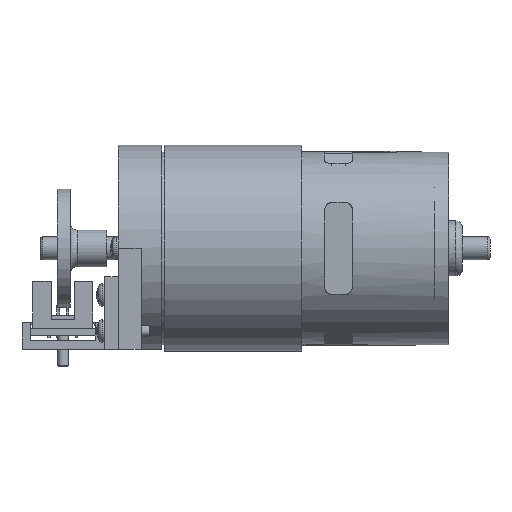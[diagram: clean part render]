
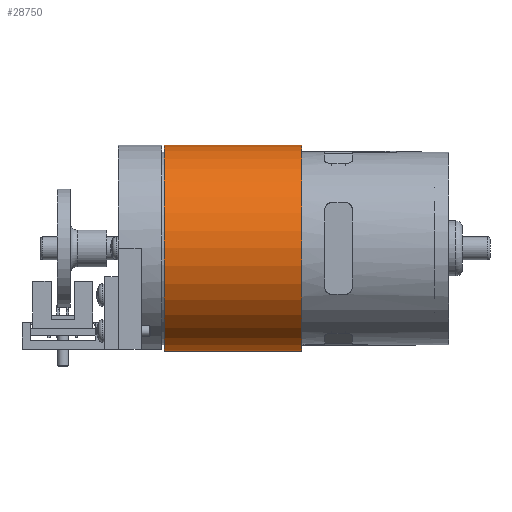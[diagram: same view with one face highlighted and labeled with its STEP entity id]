
A CAD part, left-side view. The second image highlights one B-rep face of the part: STEP entity #28750.
In plain terms, the highlighted cylindrical face has radius 22.5 mm (diameter 45 mm), a partial arc.
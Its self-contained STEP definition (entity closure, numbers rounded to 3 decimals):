
#3410=FACE_OUTER_BOUND('',#5084,.T.);
#5084=EDGE_LOOP('',(#21540,#21541,#21542,#21543));
#6788=LINE('',#40997,#9611);
#6794=LINE('',#41009,#9617);
#9611=VECTOR('',#33636,10.);
#9617=VECTOR('',#33644,10.);
#12508=CIRCLE('',#31165,22.5);
#12511=CIRCLE('',#31169,22.5);
#13079=VERTEX_POINT('',#40993);
#13081=VERTEX_POINT('',#40996);
#13084=VERTEX_POINT('',#41003);
#13086=VERTEX_POINT('',#41007);
#16134=EDGE_CURVE('',#13081,#13079,#6788,.T.);
#16140=EDGE_CURVE('',#13084,#13086,#6794,.T.);
#16376=EDGE_CURVE('',#13081,#13086,#12508,.T.);
#16379=EDGE_CURVE('',#13079,#13084,#12511,.T.);
#21540=ORIENTED_EDGE('',*,*,#16140,.T.);
#21541=ORIENTED_EDGE('',*,*,#16376,.F.);
#21542=ORIENTED_EDGE('',*,*,#16134,.T.);
#21543=ORIENTED_EDGE('',*,*,#16379,.T.);
#28334=CYLINDRICAL_SURFACE('',#31170,22.5);
#28750=ADVANCED_FACE('',(#3410),#28334,.T.);
#31165=AXIS2_PLACEMENT_3D('',#41642,#34180,#34181);
#31169=AXIS2_PLACEMENT_3D('',#41647,#34188,#34189);
#31170=AXIS2_PLACEMENT_3D('',#41648,#34190,#34191);
#33636=DIRECTION('',(0.,1.,0.));
#33644=DIRECTION('',(0.,-1.,0.));
#34180=DIRECTION('center_axis',(0.,-1.,0.));
#34181=DIRECTION('ref_axis',(-1.,0.,0.));
#34188=DIRECTION('center_axis',(0.,-1.,0.));
#34189=DIRECTION('ref_axis',(-1.,0.,0.));
#34190=DIRECTION('center_axis',(0.,-1.,0.));
#34191=DIRECTION('ref_axis',(-1.,0.,0.));
#40993=CARTESIAN_POINT('',(22.5,62.,0.));
#40996=CARTESIAN_POINT('',(22.5,32.,0.));
#40997=CARTESIAN_POINT('',(22.5,62.,0.));
#41003=CARTESIAN_POINT('',(19.486,62.,-11.25));
#41007=CARTESIAN_POINT('',(19.486,32.,-11.25));
#41009=CARTESIAN_POINT('',(19.486,62.,-11.25));
#41642=CARTESIAN_POINT('Origin',(0.,32.,0.));
#41647=CARTESIAN_POINT('Origin',(0.,62.,0.));
#41648=CARTESIAN_POINT('Origin',(0.,62.,0.));
